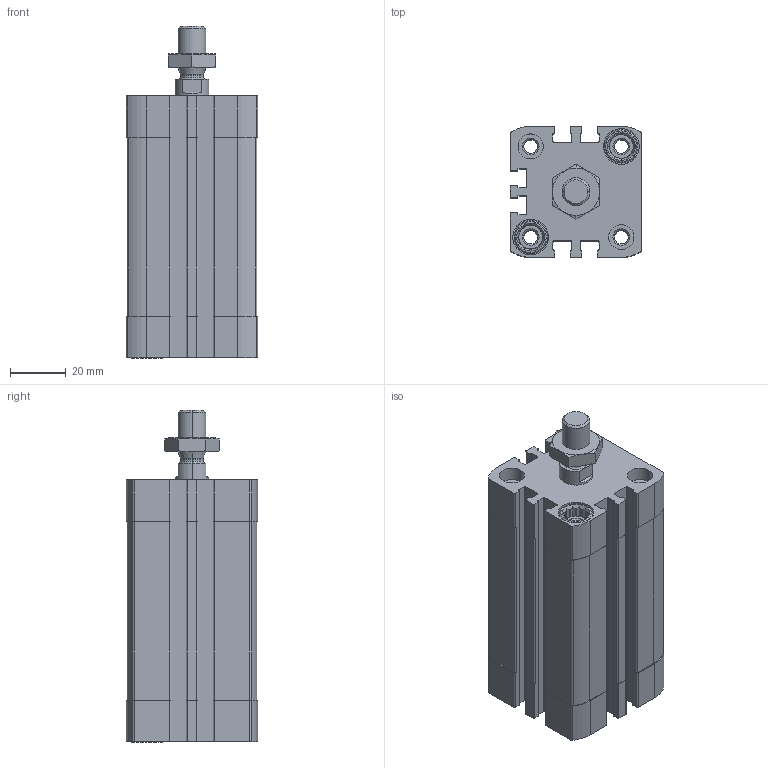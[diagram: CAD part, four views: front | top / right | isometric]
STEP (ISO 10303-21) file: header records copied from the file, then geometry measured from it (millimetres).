
FILE_DESCRIPTION (( 'STEP AP203' ), '1' );
FILE_NAME ('CCN32-50M.STEP', '2017-03-29T13:14:16', ( '' ), ( '' ), 'SwSTEP 2.0', 'SolidWorks 2016', '' );
FILE_SCHEMA (( 'CONFIG_CONTROL_DESIGN' ));
Length unit declared in the file: millimetre
Products named in the file (4): CCN-50---(Z); CCN-50_(KS); _DIN-439-B - M10x1.25(F); CCN32-50M
Assembly tree (3 placements, depth 2):
  CCN32-50M
    CCN-50---(Z)
    CCN-50_(KS)
    _DIN-439-B - M10x1.25(F)
Bounding box: 47 x 47 x 119 mm (x, y, z)
Volume: 138140.3 mm3; surface area: 52618.1 mm2
Topology: 3 solids, 3 shells, 499 faces, 1334 edges, 872 vertices
Faces by surface type: plane 275, cylinder 172, cone 48, bspline 4
Entity records: 16246 total; most frequent: CARTESIAN_POINT 3119, DIRECTION 2720, ORIENTED_EDGE 2668, EDGE_CURVE 1334, AXIS2_PLACEMENT_3D 997, VERTEX_POINT 872, VECTOR 726, LINE 726
